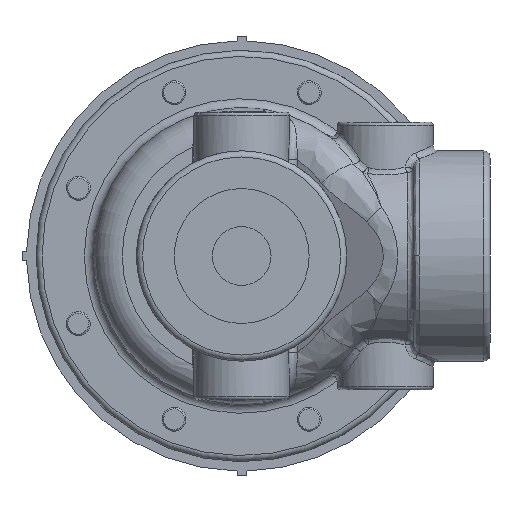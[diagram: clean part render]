
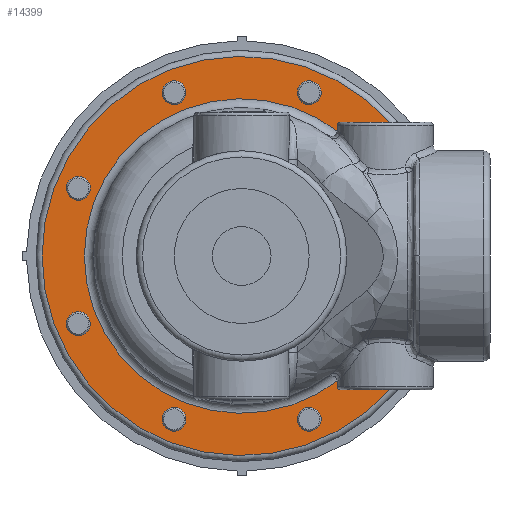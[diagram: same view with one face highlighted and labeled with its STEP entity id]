
A CAD part, front view. The second image highlights one B-rep face of the part: STEP entity #14399.
In plain terms, the highlighted planar face has unit normal (0, -1, 0).
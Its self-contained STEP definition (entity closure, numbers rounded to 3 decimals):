
#894=FACE_BOUND('',#2478,.T.);
#895=FACE_BOUND('',#2479,.T.);
#896=FACE_BOUND('',#2480,.T.);
#897=FACE_BOUND('',#2481,.T.);
#898=FACE_BOUND('',#2482,.T.);
#899=FACE_BOUND('',#2483,.T.);
#972=PLANE('',#15362);
#1539=FACE_OUTER_BOUND('',#2477,.T.);
#2477=EDGE_LOOP('',(#9597,#9598,#9599,#9600,#9601,#9602,#9603,#9604,#9605,
#9606));
#2478=EDGE_LOOP('',(#9607));
#2479=EDGE_LOOP('',(#9608));
#2480=EDGE_LOOP('',(#9609));
#2481=EDGE_LOOP('',(#9610));
#2482=EDGE_LOOP('',(#9611));
#2483=EDGE_LOOP('',(#9612));
#3492=CIRCLE('',#15363,3.969);
#3493=CIRCLE('',#15364,66.325);
#3494=CIRCLE('',#15365,3.969);
#3495=CIRCLE('',#15366,52.275);
#3496=CIRCLE('',#15367,3.969);
#3497=CIRCLE('',#15368,3.969);
#3498=CIRCLE('',#15369,3.969);
#3499=CIRCLE('',#15370,3.969);
#3500=CIRCLE('',#15371,3.969);
#3501=CIRCLE('',#15372,3.969);
#4121=LINE('',#20059,#4640);
#4123=LINE('',#20225,#4642);
#4124=LINE('',#20228,#4643);
#4125=LINE('',#20232,#4644);
#4640=VECTOR('',#16744,10.);
#4642=VECTOR('',#16776,10.);
#4643=VECTOR('',#16779,10.);
#4644=VECTOR('',#16782,10.);
#5165=B_SPLINE_CURVE_WITH_KNOTS('',3,(#20167,#20168,#20169,#20170,#20171,
#20172),.UNSPECIFIED.,.F.,.F.,(4,1,1,4),(-0.138,-0.119,
-0.06,0.),.UNSPECIFIED.);
#5168=B_SPLINE_CURVE_WITH_KNOTS('',3,(#20218,#20219,#20220,#20221,#20222,
#20223),.UNSPECIFIED.,.F.,.F.,(4,1,1,4),(-0.896,-0.837,
-0.777,-0.758),.UNSPECIFIED.);
#5733=VERTEX_POINT('',#20047);
#5735=VERTEX_POINT('',#20058);
#5742=VERTEX_POINT('',#20157);
#5743=VERTEX_POINT('',#20166);
#5756=VERTEX_POINT('',#20215);
#5757=VERTEX_POINT('',#20217);
#5758=VERTEX_POINT('',#20224);
#5759=VERTEX_POINT('',#20226);
#5760=VERTEX_POINT('',#20229);
#5761=VERTEX_POINT('',#20231);
#5762=VERTEX_POINT('',#20234);
#5763=VERTEX_POINT('',#20236);
#5764=VERTEX_POINT('',#20238);
#5765=VERTEX_POINT('',#20240);
#5766=VERTEX_POINT('',#20242);
#5767=VERTEX_POINT('',#20244);
#7221=EDGE_CURVE('',#5733,#5735,#4121,.T.);
#7229=EDGE_CURVE('',#5742,#5743,#5165,.T.);
#7243=EDGE_CURVE('',#5756,#5733,#3492,.T.);
#7244=EDGE_CURVE('',#5757,#5756,#5168,.T.);
#7245=EDGE_CURVE('',#5758,#5757,#4123,.T.);
#7246=EDGE_CURVE('',#5759,#5758,#3493,.T.);
#7247=EDGE_CURVE('',#5743,#5759,#4124,.T.);
#7248=EDGE_CURVE('',#5760,#5742,#3494,.T.);
#7249=EDGE_CURVE('',#5761,#5760,#4125,.T.);
#7250=EDGE_CURVE('',#5735,#5761,#3495,.T.);
#7251=EDGE_CURVE('',#5762,#5762,#3496,.T.);
#7252=EDGE_CURVE('',#5763,#5763,#3497,.T.);
#7253=EDGE_CURVE('',#5764,#5764,#3498,.T.);
#7254=EDGE_CURVE('',#5765,#5765,#3499,.T.);
#7255=EDGE_CURVE('',#5766,#5766,#3500,.T.);
#7256=EDGE_CURVE('',#5767,#5767,#3501,.T.);
#9597=ORIENTED_EDGE('',*,*,#7243,.F.);
#9598=ORIENTED_EDGE('',*,*,#7244,.F.);
#9599=ORIENTED_EDGE('',*,*,#7245,.F.);
#9600=ORIENTED_EDGE('',*,*,#7246,.F.);
#9601=ORIENTED_EDGE('',*,*,#7247,.F.);
#9602=ORIENTED_EDGE('',*,*,#7229,.F.);
#9603=ORIENTED_EDGE('',*,*,#7248,.F.);
#9604=ORIENTED_EDGE('',*,*,#7249,.F.);
#9605=ORIENTED_EDGE('',*,*,#7250,.F.);
#9606=ORIENTED_EDGE('',*,*,#7221,.F.);
#9607=ORIENTED_EDGE('',*,*,#7251,.F.);
#9608=ORIENTED_EDGE('',*,*,#7252,.F.);
#9609=ORIENTED_EDGE('',*,*,#7253,.F.);
#9610=ORIENTED_EDGE('',*,*,#7254,.F.);
#9611=ORIENTED_EDGE('',*,*,#7255,.F.);
#9612=ORIENTED_EDGE('',*,*,#7256,.F.);
#14399=ADVANCED_FACE('',(#1539,#894,#895,#896,#897,#898,#899),#972,.T.);
#15362=AXIS2_PLACEMENT_3D('',#20214,#16772,#16773);
#15363=AXIS2_PLACEMENT_3D('',#20216,#16774,#16775);
#15364=AXIS2_PLACEMENT_3D('',#20227,#16777,#16778);
#15365=AXIS2_PLACEMENT_3D('',#20230,#16780,#16781);
#15366=AXIS2_PLACEMENT_3D('',#20233,#16783,#16784);
#15367=AXIS2_PLACEMENT_3D('',#20235,#16785,#16786);
#15368=AXIS2_PLACEMENT_3D('',#20237,#16787,#16788);
#15369=AXIS2_PLACEMENT_3D('',#20239,#16789,#16790);
#15370=AXIS2_PLACEMENT_3D('',#20241,#16791,#16792);
#15371=AXIS2_PLACEMENT_3D('',#20243,#16793,#16794);
#15372=AXIS2_PLACEMENT_3D('',#20245,#16795,#16796);
#16744=DIRECTION('',(-1.,0.,0.));
#16772=DIRECTION('center_axis',(0.,-1.,0.));
#16773=DIRECTION('ref_axis',(0.,0.,
-1.));
#16774=DIRECTION('center_axis',(0.,-1.,0.));
#16775=DIRECTION('ref_axis',(-0.8,0.,-0.6));
#16776=DIRECTION('',(-1.,0.,0.));
#16777=DIRECTION('center_axis',(0.,1.,0.));
#16778=DIRECTION('ref_axis',(-1.,0.,0.));
#16779=DIRECTION('',(1.,0.,0.));
#16780=DIRECTION('center_axis',(0.,-1.,0.));
#16781=DIRECTION('ref_axis',(-0.99,0.,0.141));
#16782=DIRECTION('',(1.,0.,0.));
#16783=DIRECTION('center_axis',(0.,-1.,0.));
#16784=DIRECTION('ref_axis',(-1.,0.,0.));
#16785=DIRECTION('center_axis',(0.,-1.,0.));
#16786=DIRECTION('ref_axis',(0.99,0.,-0.141));
#16787=DIRECTION('center_axis',(0.,-1.,0.));
#16788=DIRECTION('ref_axis',(0.6,0.,-0.8));
#16789=DIRECTION('center_axis',(0.,-1.,0.));
#16790=DIRECTION('ref_axis',(-0.141,0.,-0.99));
#16791=DIRECTION('center_axis',(0.,-1.,0.));
#16792=DIRECTION('ref_axis',(-0.6,0.,0.8));
#16793=DIRECTION('center_axis',(0.,-1.,0.));
#16794=DIRECTION('ref_axis',(0.141,0.,0.99));
#16795=DIRECTION('center_axis',(0.,-1.,0.));
#16796=DIRECTION('ref_axis',(0.8,0.,0.6));
#20047=CARTESIAN_POINT('',(51.599,45.95,19.555));
#20058=CARTESIAN_POINT('',(48.48,45.95,19.555));
#20059=CARTESIAN_POINT('',(47.35,45.95,19.555));
#20157=CARTESIAN_POINT('',(57.711,45.95,-24.474));
#20166=CARTESIAN_POINT('',(59.064,45.95,-24.761));
#20167=CARTESIAN_POINT('Ctrl Pts',(57.711,45.95,-24.475));
#20168=CARTESIAN_POINT('Ctrl Pts',(57.769,45.95,-24.5));
#20169=CARTESIAN_POINT('Ctrl Pts',(58.014,45.95,-24.599));
#20170=CARTESIAN_POINT('Ctrl Pts',(58.462,45.95,-24.724));
#20171=CARTESIAN_POINT('Ctrl Pts',(58.865,45.95,-24.761));
#20172=CARTESIAN_POINT('Ctrl Pts',(59.064,45.95,-24.761));
#20214=CARTESIAN_POINT('Origin',(0.,45.95,0.));
#20215=CARTESIAN_POINT('',(57.711,45.95,24.474));
#20216=CARTESIAN_POINT('Origin',(54.278,45.95,22.483));
#20217=CARTESIAN_POINT('',(59.064,45.95,24.761));
#20218=CARTESIAN_POINT('Ctrl Pts',(59.064,45.95,24.761));
#20219=CARTESIAN_POINT('Ctrl Pts',(58.865,45.95,24.761));
#20220=CARTESIAN_POINT('Ctrl Pts',(58.463,45.95,24.724));
#20221=CARTESIAN_POINT('Ctrl Pts',(58.014,45.95,24.598));
#20222=CARTESIAN_POINT('Ctrl Pts',(57.769,45.95,24.5));
#20223=CARTESIAN_POINT('Ctrl Pts',(57.711,45.95,24.474));
#20224=CARTESIAN_POINT('',(61.53,45.95,24.761));
#20225=CARTESIAN_POINT('',(69.85,45.95,24.761));
#20226=CARTESIAN_POINT('',(61.53,45.95,-24.761));
#20227=CARTESIAN_POINT('Origin',(0.,45.95,0.));
#20228=CARTESIAN_POINT('',(69.85,45.95,-24.761));
#20229=CARTESIAN_POINT('',(51.599,45.95,-19.555));
#20230=CARTESIAN_POINT('Origin',(54.278,45.95,-22.483));
#20231=CARTESIAN_POINT('',(48.48,45.95,-19.555));
#20232=CARTESIAN_POINT('',(47.35,45.95,-19.555));
#20233=CARTESIAN_POINT('Origin',(0.,45.95,0.));
#20234=CARTESIAN_POINT('',(-58.207,45.95,23.044));
#20235=CARTESIAN_POINT('Origin',(-54.278,45.95,22.483));
#20236=CARTESIAN_POINT('',(-24.864,45.95,57.453));
#20237=CARTESIAN_POINT('Origin',(-22.483,45.95,54.278));
#20238=CARTESIAN_POINT('',(23.044,45.95,58.207));
#20239=CARTESIAN_POINT('Origin',(22.483,45.95,54.278));
#20240=CARTESIAN_POINT('',(24.864,45.95,-57.453));
#20241=CARTESIAN_POINT('Origin',(22.483,45.95,-54.278));
#20242=CARTESIAN_POINT('',(-23.044,45.95,-58.207));
#20243=CARTESIAN_POINT('Origin',(-22.483,45.95,-54.278));
#20244=CARTESIAN_POINT('',(-57.453,45.95,-24.864));
#20245=CARTESIAN_POINT('Origin',(-54.278,45.95,-22.483));
